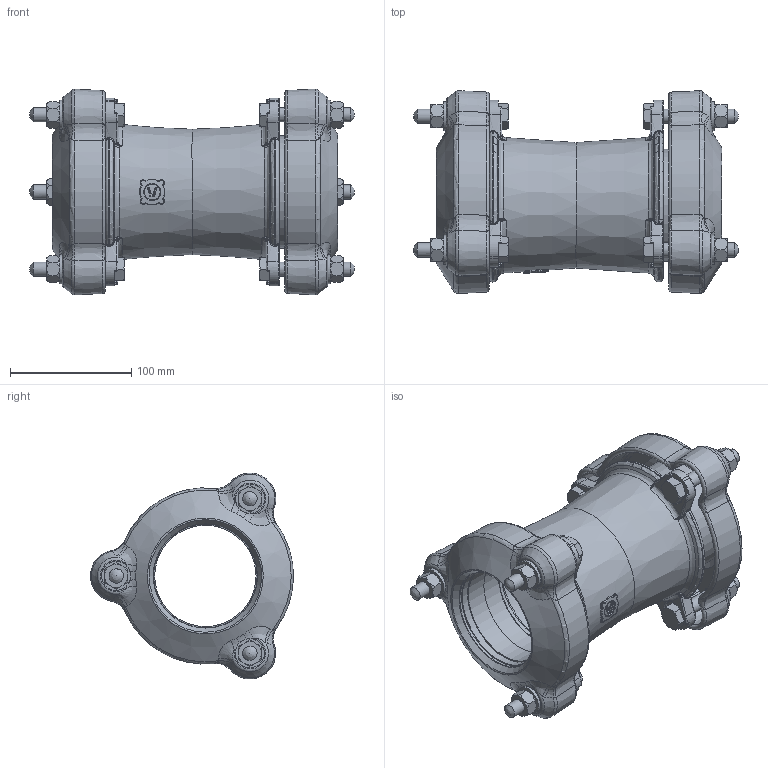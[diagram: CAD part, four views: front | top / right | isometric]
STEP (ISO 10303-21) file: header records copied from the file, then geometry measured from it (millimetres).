
FILE_DESCRIPTION((''),'2;1');
FILE_NAME('P:\Fastrack\54361_VIKING JOHNSON 3D\ULTRAGRIP\Component Parts\Components Built up\Coupling Assembly\65MM-UltraGrip-Coupling-Assembly.stp','2012-05-22T12:50:04',('dcole'),(''),'Autodesk Inventor 2008','Autodesk Inventor 2008','');
FILE_SCHEMA(('AUTOMOTIVE_DESIGN { 1 0 10303 214 1 1 1 1 }'));
Length unit declared in the file: millimetre
Products named in the file (1): 65MM-UltraGrip-Coupling-Assembly
Bounding box: 268 x 167.37 x 169.78 mm (x, y, z)
Volume: 878798 mm3; surface area: 306835 mm2
Topology: 1 solids, 1 shells, 1137 faces, 3028 edges, 1896 vertices
Faces by surface type: bspline 365, plane 275, cone 190, cylinder 169, torus 115, sphere 23
Full cylindrical faces by diameter (mm): 11.75 x6, 12 x3, 14.477 x6, 24 x6, 83.5 x2, 85.5 x8, 92.5 x2
Entity records: 76278 total; most frequent: CARTESIAN_POINT 49785, ORIENTED_EDGE 5738, DIRECTION 4565, EDGE_CURVE 2869, AXIS2_PLACEMENT_3D 1922, VERTEX_POINT 1839, EDGE_LOOP 1276, CIRCLE 1151
